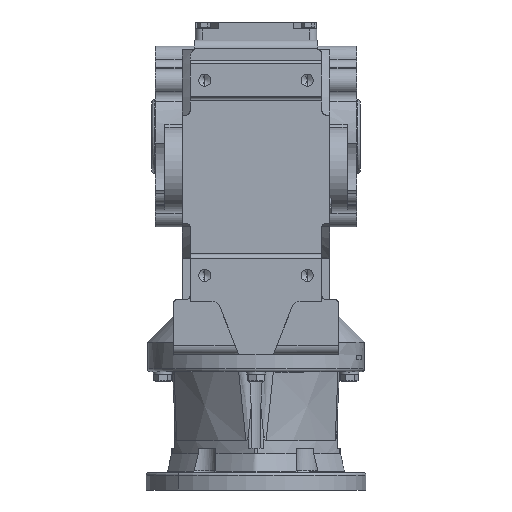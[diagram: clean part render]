
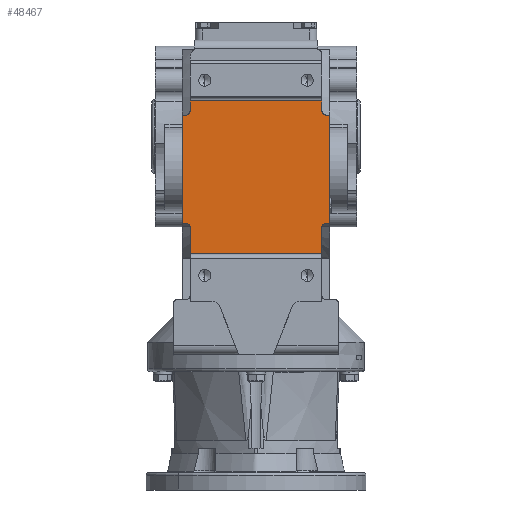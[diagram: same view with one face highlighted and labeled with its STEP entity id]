
A CAD part, front view. The second image highlights one B-rep face of the part: STEP entity #48467.
In plain terms, the highlighted planar face has unit normal (0, -1, 0).
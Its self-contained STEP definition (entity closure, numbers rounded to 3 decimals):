
#1920 = ORIENTED_EDGE ( 'NONE', *, *, #35174, .F. ) ;
#1977 = ORIENTED_EDGE ( 'NONE', *, *, #35127, .F. ) ;
#2478 = ORIENTED_EDGE ( 'NONE', *, *, #35461, .F. ) ;
#2486 = ORIENTED_EDGE ( 'NONE', *, *, #35391, .F. ) ;
#2595 = ORIENTED_EDGE ( 'NONE', *, *, #35458, .T. ) ;
#2611 = ORIENTED_EDGE ( 'NONE', *, *, #35455, .T. ) ;
#2615 = ORIENTED_EDGE ( 'NONE', *, *, #35138, .F. ) ;
#2641 = ORIENTED_EDGE ( 'NONE', *, *, #35142, .F. ) ;
#2652 = ORIENTED_EDGE ( 'NONE', *, *, #35460, .T. ) ;
#2671 = ORIENTED_EDGE ( 'NONE', *, *, #35133, .F. ) ;
#2675 = ORIENTED_EDGE ( 'NONE', *, *, #35126, .T. ) ;
#2697 = ORIENTED_EDGE ( 'NONE', *, *, #35136, .T. ) ;
#2710 = ORIENTED_EDGE ( 'NONE', *, *, #35140, .T. ) ;
#2744 = ORIENTED_EDGE ( 'NONE', *, *, #35150, .F. ) ;
#2776 = ORIENTED_EDGE ( 'NONE', *, *, #35129, .T. ) ;
#2786 = ORIENTED_EDGE ( 'NONE', *, *, #35459, .F. ) ;
#2799 = LINE ( 'NONE', #37640, #2856 ) ;
#2856 = VECTOR ( 'NONE', #37643, 1000. ) ;
#2862 = VECTOR ( 'NONE', #43647, 1000. ) ;
#2896 = VECTOR ( 'NONE', #43653, 1000. ) ;
#2936 = CIRCLE ( 'NONE', #39139, 5. ) ;
#3007 = CIRCLE ( 'NONE', #39141, 5. ) ;
#3031 = LINE ( 'NONE', #43646, #2862 ) ;
#3071 = VECTOR ( 'NONE', #43766, 1000. ) ;
#3076 = LINE ( 'NONE', #43765, #3071 ) ;
#3081 = VECTOR ( 'NONE', #43615, 1000. ) ;
#3107 = VECTOR ( 'NONE', #43638, 1000. ) ;
#3138 = LINE ( 'NONE', #43659, #3302 ) ;
#3147 = LINE ( 'NONE', #43637, #3107 ) ;
#3302 = VECTOR ( 'NONE', #43660, 1000. ) ;
#3351 = LINE ( 'NONE', #43652, #2896 ) ;
#3368 = LINE ( 'NONE', #38011, #4006 ) ;
#3411 = LINE ( 'NONE', #43657, #4288 ) ;
#3473 = VECTOR ( 'NONE', #38041, 1000. ) ;
#3505 = LINE ( 'NONE', #43700, #3600 ) ;
#3519 = LINE ( 'NONE', #43631, #3081 ) ;
#3600 = VECTOR ( 'NONE', #43701, 1000. ) ;
#3602 = LINE ( 'NONE', #38038, #3473 ) ;
#4006 = VECTOR ( 'NONE', #38013, 1000. ) ;
#4176 = CIRCLE ( 'NONE', #39247, 5. ) ;
#4226 = VECTOR ( 'NONE', #38045, 1000. ) ;
#4238 = LINE ( 'NONE', #38043, #4226 ) ;
#4288 = VECTOR ( 'NONE', #43658, 1000. ) ;
#4290 = CIRCLE ( 'NONE', #39246, 5. ) ;
#17422 = AXIS2_PLACEMENT_3D ( 'NONE', #39970, #39976, #39977 ) ;
#28207 = EDGE_LOOP ( 'NONE', ( #2641, #2710, #2615, #2697, #2671, #2486, #2744, #2595, #2786, #2652, #2478, #2611, #2776, #1920, #1977, #2675 ) ) ;
#31378 = VERTEX_POINT ( 'NONE', #48259 ) ;
#31398 = VERTEX_POINT ( 'NONE', #48278 ) ;
#31414 = VERTEX_POINT ( 'NONE', #48294 ) ;
#31415 = VERTEX_POINT ( 'NONE', #48295 ) ;
#31441 = VERTEX_POINT ( 'NONE', #48321 ) ;
#31442 = VERTEX_POINT ( 'NONE', #48322 ) ;
#31457 = VERTEX_POINT ( 'NONE', #48337 ) ;
#31474 = VERTEX_POINT ( 'NONE', #48354 ) ;
#31513 = VERTEX_POINT ( 'NONE', #48393 ) ;
#31554 = VERTEX_POINT ( 'NONE', #43165 ) ;
#31560 = VERTEX_POINT ( 'NONE', #43171 ) ;
#31585 = VERTEX_POINT ( 'NONE', #43196 ) ;
#31586 = VERTEX_POINT ( 'NONE', #43197 ) ;
#31604 = VERTEX_POINT ( 'NONE', #43215 ) ;
#31624 = VERTEX_POINT ( 'NONE', #43235 ) ;
#31675 = VERTEX_POINT ( 'NONE', #43286 ) ;
#35126 = EDGE_CURVE ( 'NONE', #31415, #31414, #2936, .T. ) ;
#35127 = EDGE_CURVE ( 'NONE', #31415, #31604, #3519, .T. ) ;
#35129 = EDGE_CURVE ( 'NONE', #31441, #31554, #3147, .T. ) ;
#35133 = EDGE_CURVE ( 'NONE', #31398, #31442, #3031, .T. ) ;
#35136 = EDGE_CURVE ( 'NONE', #31513, #31442, #3007, .T. ) ;
#35138 = EDGE_CURVE ( 'NONE', #31513, #31624, #3411, .T. ) ;
#35140 = EDGE_CURVE ( 'NONE', #31586, #31624, #3351, .T. ) ;
#35142 = EDGE_CURVE ( 'NONE', #31586, #31414, #3138, .T. ) ;
#35150 = EDGE_CURVE ( 'NONE', #31378, #31585, #3505, .T. ) ;
#35174 = EDGE_CURVE ( 'NONE', #31604, #31554, #3076, .T. ) ;
#35391 = EDGE_CURVE ( 'NONE', #31585, #31398, #2799, .T. ) ;
#35455 = EDGE_CURVE ( 'NONE', #31675, #31441, #4290, .T. ) ;
#35458 = EDGE_CURVE ( 'NONE', #31378, #31560, #4176, .T. ) ;
#35459 = EDGE_CURVE ( 'NONE', #31474, #31560, #3368, .T. ) ;
#35460 = EDGE_CURVE ( 'NONE', #31474, #31457, #3602, .T. ) ;
#35461 = EDGE_CURVE ( 'NONE', #31675, #31457, #4238, .T. ) ;
#37640 = CARTESIAN_POINT ( 'NONE',  ( -85., -206., 7. ) ) ;
#37643 = DIRECTION ( 'NONE',  ( 0., 0., 1. ) ) ;
#38011 = CARTESIAN_POINT ( 'NONE',  ( -76., -206., -103. ) ) ;
#38013 = DIRECTION ( 'NONE',  ( 0., 0., 1. ) ) ;
#38015 = CARTESIAN_POINT ( 'NONE',  ( 81., -206., -105. ) ) ;
#38017 = DIRECTION ( 'NONE',  ( 0., 1., 0. ) ) ;
#38019 = DIRECTION ( 'NONE',  ( 0., 0., -1. ) ) ;
#38032 = CARTESIAN_POINT ( 'NONE',  ( -81., -206., -105. ) ) ;
#38034 = DIRECTION ( 'NONE',  ( 0., 1., 0. ) ) ;
#38035 = DIRECTION ( 'NONE',  ( 0., 0., -1. ) ) ;
#38038 = CARTESIAN_POINT ( 'NONE',  ( -112., -206., -135.346 ) ) ;
#38041 = DIRECTION ( 'NONE',  ( 1., 0., 0. ) ) ;
#38043 = CARTESIAN_POINT ( 'NONE',  ( 76., -206., -100. ) ) ;
#38045 = DIRECTION ( 'NONE',  ( 0., 0., -1. ) ) ;
#39139 = AXIS2_PLACEMENT_3D ( 'NONE', #43632, #43633, #43634 ) ;
#39141 = AXIS2_PLACEMENT_3D ( 'NONE', #43654, #43655, #43656 ) ;
#39246 = AXIS2_PLACEMENT_3D ( 'NONE', #38015, #38017, #38019 ) ;
#39247 = AXIS2_PLACEMENT_3D ( 'NONE', #38032, #38034, #38035 ) ;
#39970 = CARTESIAN_POINT ( 'NONE',  ( -112., -206., 7. ) ) ;
#39974 = PLANE ( 'NONE',  #17422 ) ;
#39976 = DIRECTION ( 'NONE',  ( 0., -1., 0. ) ) ;
#39977 = DIRECTION ( 'NONE',  ( 0., 0., -1. ) ) ;
#43165 = CARTESIAN_POINT ( 'NONE',  ( 85., -206., -100. ) ) ;
#43171 = CARTESIAN_POINT ( 'NONE',  ( -76., -206., -105. ) ) ;
#43196 = CARTESIAN_POINT ( 'NONE',  ( -85., -206., -100. ) ) ;
#43197 = CARTESIAN_POINT ( 'NONE',  ( 76., -206., 41. ) ) ;
#43215 = CARTESIAN_POINT ( 'NONE',  ( 85., -206., 24.651 ) ) ;
#43235 = CARTESIAN_POINT ( 'NONE',  ( -76., -206., 41. ) ) ;
#43286 = CARTESIAN_POINT ( 'NONE',  ( 76., -206., -105. ) ) ;
#43615 = DIRECTION ( 'NONE',  ( 1., 0., 0. ) ) ;
#43631 = CARTESIAN_POINT ( 'NONE',  ( 85., -206., 24.651 ) ) ;
#43632 = CARTESIAN_POINT ( 'NONE',  ( 81., -206., 29.651 ) ) ;
#43633 = DIRECTION ( 'NONE',  ( 0., 1., 0. ) ) ;
#43634 = DIRECTION ( 'NONE',  ( 0., 0., -1. ) ) ;
#43637 = CARTESIAN_POINT ( 'NONE',  ( 76., -206., -100. ) ) ;
#43638 = DIRECTION ( 'NONE',  ( 1., 0., 0. ) ) ;
#43646 = CARTESIAN_POINT ( 'NONE',  ( -76., -206., 24.651 ) ) ;
#43647 = DIRECTION ( 'NONE',  ( 1., 0., 0. ) ) ;
#43652 = CARTESIAN_POINT ( 'NONE',  ( -112., -206., 41. ) ) ;
#43653 = DIRECTION ( 'NONE',  ( -1., 0., 0. ) ) ;
#43654 = CARTESIAN_POINT ( 'NONE',  ( -81., -206., 29.651 ) ) ;
#43655 = DIRECTION ( 'NONE',  ( 0., 1., 0. ) ) ;
#43656 = DIRECTION ( 'NONE',  ( 0., 0., -1. ) ) ;
#43657 = CARTESIAN_POINT ( 'NONE',  ( -76., -206., 46. ) ) ;
#43658 = DIRECTION ( 'NONE',  ( 0., 0., 1. ) ) ;
#43659 = CARTESIAN_POINT ( 'NONE',  ( 76., -206., 46. ) ) ;
#43660 = DIRECTION ( 'NONE',  ( 0., 0., -1. ) ) ;
#43700 = CARTESIAN_POINT ( 'NONE',  ( -76., -206., -100. ) ) ;
#43701 = DIRECTION ( 'NONE',  ( -1., 0., 0. ) ) ;
#43765 = CARTESIAN_POINT ( 'NONE',  ( 85., -206., 7. ) ) ;
#43766 = DIRECTION ( 'NONE',  ( 0., 0., -1. ) ) ;
#47036 = FACE_OUTER_BOUND ( 'NONE', #28207, .T. ) ;
#48259 = CARTESIAN_POINT ( 'NONE',  ( -81., -206., -100. ) ) ;
#48278 = CARTESIAN_POINT ( 'NONE',  ( -85., -206., 24.651 ) ) ;
#48294 = CARTESIAN_POINT ( 'NONE',  ( 76., -206., 29.651 ) ) ;
#48295 = CARTESIAN_POINT ( 'NONE',  ( 81., -206., 24.651 ) ) ;
#48321 = CARTESIAN_POINT ( 'NONE',  ( 81., -206., -100. ) ) ;
#48322 = CARTESIAN_POINT ( 'NONE',  ( -81., -206., 24.651 ) ) ;
#48337 = CARTESIAN_POINT ( 'NONE',  ( 76., -206., -135.346 ) ) ;
#48354 = CARTESIAN_POINT ( 'NONE',  ( -76., -206., -135.346 ) ) ;
#48393 = CARTESIAN_POINT ( 'NONE',  ( -76., -206., 29.651 ) ) ;
#48467 = ADVANCED_FACE ( 'NONE', ( #47036 ), #39974, .T. ) ;
